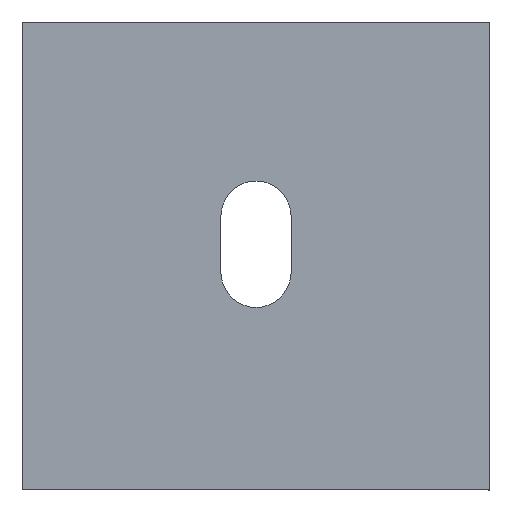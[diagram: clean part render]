
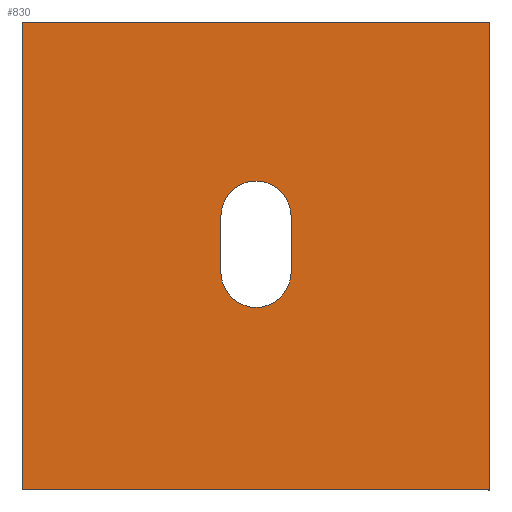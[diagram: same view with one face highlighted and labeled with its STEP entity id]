
A CAD part, front view. The second image highlights one B-rep face of the part: STEP entity #830.
In plain terms, the highlighted planar face has unit normal (0, -1, 0).
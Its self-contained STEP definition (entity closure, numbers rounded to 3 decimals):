
#395=CIRCLE('',#804,7.5);
#396=CIRCLE('',#805,7.5);
#439=ORIENTED_EDGE('',*,*,#574,.T.);
#440=ORIENTED_EDGE('',*,*,#555,.F.);
#441=ORIENTED_EDGE('',*,*,#560,.F.);
#442=ORIENTED_EDGE('',*,*,#568,.T.);
#443=ORIENTED_EDGE('',*,*,#575,.F.);
#444=ORIENTED_EDGE('',*,*,#576,.T.);
#445=ORIENTED_EDGE('',*,*,#577,.F.);
#446=ORIENTED_EDGE('',*,*,#578,.T.);
#474=VECTOR('',#650,1.);
#479=VECTOR('',#657,1.);
#484=VECTOR('',#670,1.);
#488=VECTOR('',#684,1.);
#489=VECTOR('',#687,1.);
#490=VECTOR('',#690,1.);
#500=LINE('',#731,#474);
#505=LINE('',#740,#479);
#510=LINE('',#754,#484);
#514=LINE('',#767,#488);
#515=LINE('',#771,#489);
#516=LINE('',#775,#490);
#529=VERTEX_POINT('',#728);
#530=VERTEX_POINT('',#730);
#533=VERTEX_POINT('',#738);
#538=VERTEX_POINT('',#752);
#543=VERTEX_POINT('',#769);
#544=VERTEX_POINT('',#770);
#545=VERTEX_POINT('',#772);
#546=VERTEX_POINT('',#774);
#555=EDGE_CURVE('',#529,#530,#500,.T.);
#560=EDGE_CURVE('',#533,#529,#505,.T.);
#568=EDGE_CURVE('',#533,#538,#510,.T.);
#574=EDGE_CURVE('',#538,#530,#514,.T.);
#575=EDGE_CURVE('',#543,#544,#515,.T.);
#576=EDGE_CURVE('',#543,#545,#395,.T.);
#577=EDGE_CURVE('',#546,#545,#516,.T.);
#578=EDGE_CURVE('',#546,#544,#396,.T.);
#597=EDGE_LOOP('',(#439,#440,#441,#442));
#598=EDGE_LOOP('',(#443,#444,#445,#446));
#623=FACE_BOUND('',#597,.T.);
#624=FACE_BOUND('',#598,.T.);
#650=DIRECTION('',(0.,0.,100.));
#657=DIRECTION('',(-100.,0.,0.));
#670=DIRECTION('',(0.,0.,100.));
#684=DIRECTION('',(-100.,0.,0.));
#685=DIRECTION('',(0.,-1.,0.));
#686=DIRECTION('',(-1.,0.,0.));
#687=DIRECTION('',(0.,0.,12.));
#688=DIRECTION('',(0.,1.,0.));
#689=DIRECTION('',(7.5,0.,0.));
#690=DIRECTION('',(0.,0.,-12.));
#691=DIRECTION('',(0.,1.,0.));
#692=DIRECTION('',(-7.5,0.,0.));
#728=CARTESIAN_POINT('',(0.,-200.,0.));
#730=CARTESIAN_POINT('',(0.,-200.,100.));
#731=CARTESIAN_POINT('',(0.,-200.,0.));
#738=CARTESIAN_POINT('',(100.,-200.,0.));
#740=CARTESIAN_POINT('',(100.,-200.,0.));
#752=CARTESIAN_POINT('',(100.,-200.,100.));
#754=CARTESIAN_POINT('',(100.,-200.,0.));
#767=CARTESIAN_POINT('',(100.,-200.,100.));
#768=CARTESIAN_POINT('',(100.,-200.,100.));
#769=CARTESIAN_POINT('',(57.5,-200.,46.5));
#770=CARTESIAN_POINT('',(57.5,-200.,58.5));
#771=CARTESIAN_POINT('',(57.5,-200.,46.5));
#772=CARTESIAN_POINT('',(42.5,-200.,46.5));
#773=CARTESIAN_POINT('',(50.,-200.,46.5));
#774=CARTESIAN_POINT('',(42.5,-200.,58.5));
#775=CARTESIAN_POINT('',(42.5,-200.,58.5));
#776=CARTESIAN_POINT('',(50.,-200.,58.5));
#803=AXIS2_PLACEMENT_3D('',#768,#685,#686);
#804=AXIS2_PLACEMENT_3D('',#773,#688,#689);
#805=AXIS2_PLACEMENT_3D('',#776,#691,#692);
#820=PLANE('',#803);
#830=ADVANCED_FACE('',(#623,#624),#820,.T.);
